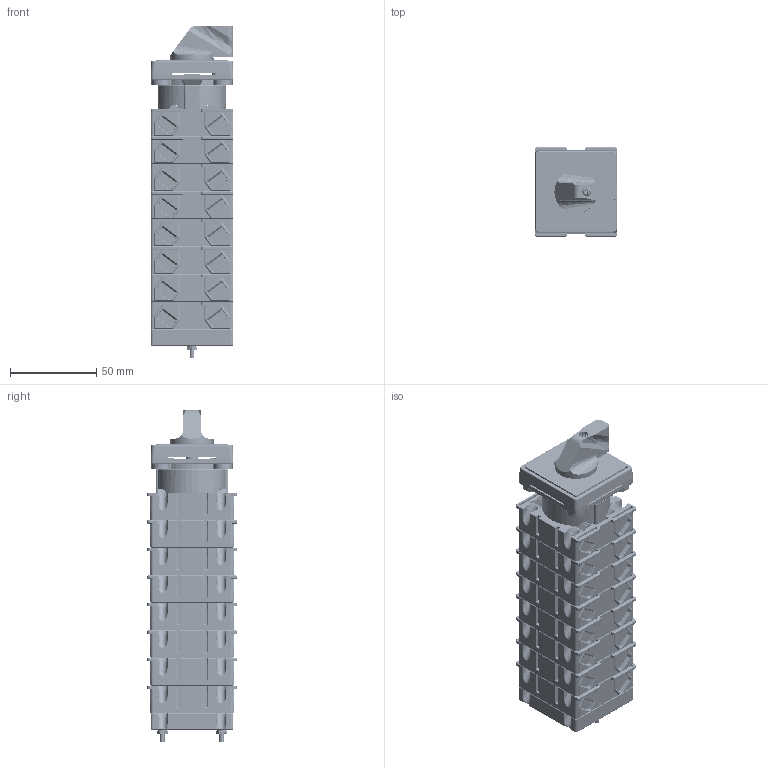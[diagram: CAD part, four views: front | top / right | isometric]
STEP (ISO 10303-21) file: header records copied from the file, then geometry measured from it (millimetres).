
FILE_DESCRIPTION (( 'STEP AP214' ), '1' );
FILE_NAME ('Ïåðåêëþ÷àòåëü 4G16, 25-XXXX-U-R114 ÃÆÈÊ.642212 8ê.STEP', '2024-07-31T08:14:44', ( '' ), ( '' ), 'SwSTEP 2.0', 'SolidWorks 2018', '' );
FILE_SCHEMA (( 'AUTOMOTIVE_DESIGN' ));
Length unit declared in the file: millimetre
Products named in the file (1): Ïåðåêëþ÷àòåëü 4G16, 25-XXXX-U-R114 ÃÆÈÊ.642212 8ê
Bounding box: 48 x 52 x 192.6 mm (x, y, z)
Volume: 341401.4 mm3; surface area: 138976.9 mm2
Topology: 28 solids, 92 shells, 7902 faces, 20771 edges, 13166 vertices
Faces by surface type: plane 4597, cylinder 2375, torus 396, cone 343, bspline 127, sphere 64
Entity records: 340422 total; most frequent: CARTESIAN_POINT 60465, ORIENTED_EDGE 41428, DIRECTION 39007, EDGE_CURVE 20714, LINE 14461, VECTOR 14461, VERTEX_POINT 13154, AXIS2_PLACEMENT_3D 12273
